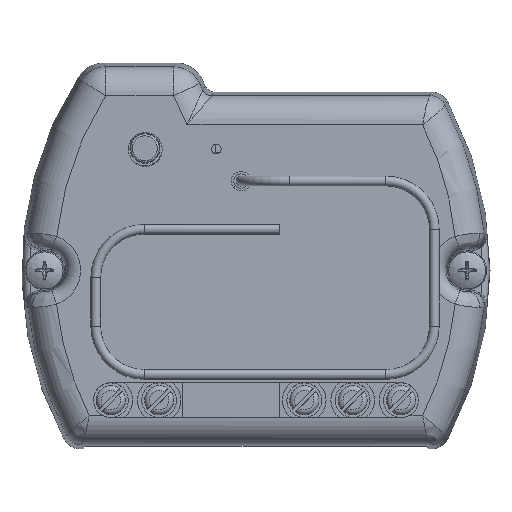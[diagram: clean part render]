
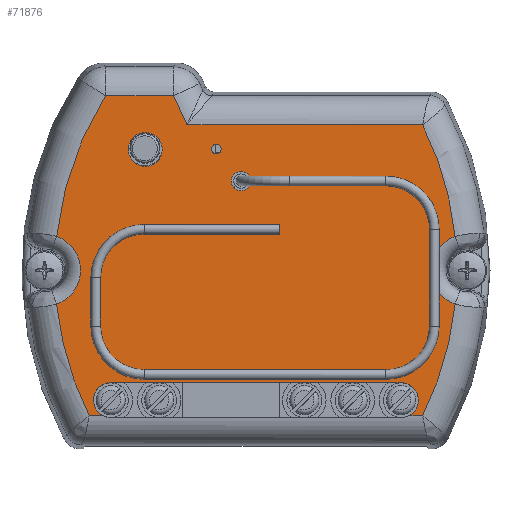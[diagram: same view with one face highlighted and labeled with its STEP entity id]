
A CAD part, top view. The second image highlights one B-rep face of the part: STEP entity #71876.
In plain terms, the highlighted planar face has unit normal (0, 0, 1).
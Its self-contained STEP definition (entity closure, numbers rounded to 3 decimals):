
#2489=FACE_BOUND('',#10809,.T.);
#2490=FACE_BOUND('',#10810,.T.);
#2491=FACE_BOUND('',#10811,.T.);
#3983=PLANE('',#77966);
#6436=FACE_OUTER_BOUND('',#10808,.T.);
#10808=EDGE_LOOP('',(#50602,#50603,#50604,#50605,#50606,#50607,#50608,#50609,
#50610,#50611,#50612,#50613,#50614,#50615));
#10809=EDGE_LOOP('',(#50616));
#10810=EDGE_LOOP('',(#50617));
#10811=EDGE_LOOP('',(#50618));
#15658=LINE('',#109242,#22760);
#15660=LINE('',#109280,#22762);
#15663=LINE('',#109292,#22765);
#15666=LINE('',#109360,#22768);
#15667=LINE('',#109364,#22769);
#15668=LINE('',#109368,#22770);
#22760=VECTOR('',#85790,10.);
#22762=VECTOR('',#85796,10.);
#22765=VECTOR('',#85811,10.);
#22768=VECTOR('',#85840,10.);
#22769=VECTOR('',#85843,10.);
#22770=VECTOR('',#85846,10.);
#29550=CIRCLE('',#77877,1.);
#29554=CIRCLE('',#77883,0.5);
#29589=CIRCLE('',#77961,33.582);
#29592=CIRCLE('',#77967,3.724);
#29593=CIRCLE('',#77968,33.582);
#29594=CIRCLE('',#77969,1.8);
#29595=CIRCLE('',#77970,1.8);
#29596=CIRCLE('',#77971,33.582);
#29597=CIRCLE('',#77972,3.724);
#29598=CIRCLE('',#77973,33.582);
#29599=CIRCLE('',#77974,1.75);
#32534=VERTEX_POINT('',#107391);
#32537=VERTEX_POINT('',#107401);
#32634=VERTEX_POINT('',#109230);
#32636=VERTEX_POINT('',#109241);
#32638=VERTEX_POINT('',#109278);
#32641=VERTEX_POINT('',#109290);
#32645=VERTEX_POINT('',#109330);
#32650=VERTEX_POINT('',#109355);
#32651=VERTEX_POINT('',#109357);
#32652=VERTEX_POINT('',#109359);
#32653=VERTEX_POINT('',#109361);
#32654=VERTEX_POINT('',#109363);
#32655=VERTEX_POINT('',#109365);
#32656=VERTEX_POINT('',#109367);
#32657=VERTEX_POINT('',#109369);
#32658=VERTEX_POINT('',#109371);
#32659=VERTEX_POINT('',#109374);
#39345=EDGE_CURVE('',#32534,#32534,#29550,.T.);
#39350=EDGE_CURVE('',#32537,#32537,#29554,.T.);
#39474=EDGE_CURVE('',#32634,#32636,#15658,.T.);
#39478=EDGE_CURVE('',#32638,#32634,#15660,.T.);
#39484=EDGE_CURVE('',#32641,#32638,#15663,.T.);
#39493=EDGE_CURVE('',#32645,#32641,#29589,.T.);
#39499=EDGE_CURVE('',#32650,#32645,#29592,.T.);
#39500=EDGE_CURVE('',#32651,#32650,#29593,.T.);
#39501=EDGE_CURVE('',#32652,#32651,#15666,.T.);
#39502=EDGE_CURVE('',#32652,#32653,#29594,.T.);
#39503=EDGE_CURVE('',#32653,#32654,#15667,.T.);
#39504=EDGE_CURVE('',#32654,#32655,#29595,.T.);
#39505=EDGE_CURVE('',#32656,#32655,#15668,.T.);
#39506=EDGE_CURVE('',#32657,#32656,#29596,.T.);
#39507=EDGE_CURVE('',#32658,#32657,#29597,.T.);
#39508=EDGE_CURVE('',#32636,#32658,#29598,.T.);
#39509=EDGE_CURVE('',#32659,#32659,#29599,.T.);
#50602=ORIENTED_EDGE('',*,*,#39484,.F.);
#50603=ORIENTED_EDGE('',*,*,#39493,.F.);
#50604=ORIENTED_EDGE('',*,*,#39499,.F.);
#50605=ORIENTED_EDGE('',*,*,#39500,.F.);
#50606=ORIENTED_EDGE('',*,*,#39501,.F.);
#50607=ORIENTED_EDGE('',*,*,#39502,.T.);
#50608=ORIENTED_EDGE('',*,*,#39503,.T.);
#50609=ORIENTED_EDGE('',*,*,#39504,.T.);
#50610=ORIENTED_EDGE('',*,*,#39505,.F.);
#50611=ORIENTED_EDGE('',*,*,#39506,.F.);
#50612=ORIENTED_EDGE('',*,*,#39507,.F.);
#50613=ORIENTED_EDGE('',*,*,#39508,.F.);
#50614=ORIENTED_EDGE('',*,*,#39474,.F.);
#50615=ORIENTED_EDGE('',*,*,#39478,.F.);
#50616=ORIENTED_EDGE('',*,*,#39345,.T.);
#50617=ORIENTED_EDGE('',*,*,#39350,.T.);
#50618=ORIENTED_EDGE('',*,*,#39509,.T.);
#71876=ADVANCED_FACE('',(#6436,#2489,#2490,#2491),#3983,.T.);
#77877=AXIS2_PLACEMENT_3D('',#107392,#85587,#85588);
#77883=AXIS2_PLACEMENT_3D('',#107402,#85600,#85601);
#77961=AXIS2_PLACEMENT_3D('',#109336,#85823,#85824);
#77966=AXIS2_PLACEMENT_3D('',#109354,#85834,#85835);
#77967=AXIS2_PLACEMENT_3D('',#109356,#85836,#85837);
#77968=AXIS2_PLACEMENT_3D('',#109358,#85838,#85839);
#77969=AXIS2_PLACEMENT_3D('',#109362,#85841,#85842);
#77970=AXIS2_PLACEMENT_3D('',#109366,#85844,#85845);
#77971=AXIS2_PLACEMENT_3D('',#109370,#85847,#85848);
#77972=AXIS2_PLACEMENT_3D('',#109372,#85849,#85850);
#77973=AXIS2_PLACEMENT_3D('',#109373,#85851,#85852);
#77974=AXIS2_PLACEMENT_3D('',#109375,#85853,#85854);
#85587=DIRECTION('center_axis',(0.,0.,-1.));
#85588=DIRECTION('ref_axis',(-1.,0.,0.));
#85600=DIRECTION('center_axis',(0.,0.,-1.));
#85601=DIRECTION('ref_axis',(-1.,0.,0.));
#85790=DIRECTION('',(1.,0.,0.));
#85796=DIRECTION('',(0.423,-0.906,0.));
#85811=DIRECTION('',(1.,0.,0.));
#85823=DIRECTION('center_axis',(0.,0.,-1.));
#85824=DIRECTION('ref_axis',(-0.962,0.272,0.));
#85834=DIRECTION('center_axis',(0.,0.,1.));
#85835=DIRECTION('ref_axis',(1.,0.,0.));
#85836=DIRECTION('center_axis',(0.,0.,1.));
#85837=DIRECTION('ref_axis',(1.,0.,0.));
#85838=DIRECTION('center_axis',(0.,0.,-1.));
#85839=DIRECTION('ref_axis',(-0.962,-0.272,0.));
#85840=DIRECTION('',(-1.,0.,0.));
#85841=DIRECTION('center_axis',(0.,0.,-1.));
#85842=DIRECTION('ref_axis',(-1.,0.,0.));
#85843=DIRECTION('',(1.,0.,0.));
#85844=DIRECTION('center_axis',(0.,0.,-1.));
#85845=DIRECTION('ref_axis',(-1.,0.,0.));
#85846=DIRECTION('',(-1.,0.,0.));
#85847=DIRECTION('center_axis',(0.,0.,-1.));
#85848=DIRECTION('ref_axis',(0.962,-0.272,0.));
#85849=DIRECTION('center_axis',(0.,0.,1.));
#85850=DIRECTION('ref_axis',(-1.,0.,0.));
#85851=DIRECTION('center_axis',(0.,0.,-1.));
#85852=DIRECTION('ref_axis',(0.962,0.272,0.));
#85853=DIRECTION('center_axis',(0.,0.,-1.));
#85854=DIRECTION('ref_axis',(1.,0.,0.));
#107391=CARTESIAN_POINT('',(-0.554,9.221,12.5));
#107392=CARTESIAN_POINT('Origin',(-1.554,9.221,12.5));
#107401=CARTESIAN_POINT('',(-3.585,12.527,12.5));
#107402=CARTESIAN_POINT('Origin',(-4.085,12.527,12.5));
#109230=CARTESIAN_POINT('',(-7.126,15.032,12.5));
#109241=CARTESIAN_POINT('',(17.23,15.032,12.5));
#109242=CARTESIAN_POINT('',(-9.047,15.032,12.5));
#109278=CARTESIAN_POINT('',(-8.525,18.032,12.5));
#109280=CARTESIAN_POINT('',(-9.516,20.156,12.5));
#109290=CARTESIAN_POINT('',(-15.53,18.032,12.5));
#109292=CARTESIAN_POINT('',(-14.761,18.032,12.5));
#109330=CARTESIAN_POINT('',(-20.599,3.508,12.5));
#109336=CARTESIAN_POINT('Origin',(12.8,0.,12.5));
#109354=CARTESIAN_POINT('Origin',(-12.174,19.1,12.5));
#109355=CARTESIAN_POINT('',(-20.599,-3.508,12.5));
#109356=CARTESIAN_POINT('Origin',(-21.85,0.,
12.5));
#109357=CARTESIAN_POINT('',(-17.23,-15.032,12.5));
#109358=CARTESIAN_POINT('Origin',(12.8,0.,12.5));
#109359=CARTESIAN_POINT('',(-15.807,-15.032,12.5));
#109360=CARTESIAN_POINT('',(9.047,-15.032,12.5));
#109361=CARTESIAN_POINT('',(-15.,-11.623,12.5));
#109362=CARTESIAN_POINT('Origin',(-15.,-13.423,12.5));
#109363=CARTESIAN_POINT('',(15.,-11.623,12.5));
#109364=CARTESIAN_POINT('',(7.5,-11.623,12.5));
#109365=CARTESIAN_POINT('',(15.807,-15.032,12.5));
#109366=CARTESIAN_POINT('Origin',(15.,-13.423,12.5));
#109367=CARTESIAN_POINT('',(17.23,-15.032,12.5));
#109368=CARTESIAN_POINT('',(9.047,-15.032,12.5));
#109369=CARTESIAN_POINT('',(20.599,-3.508,12.5));
#109370=CARTESIAN_POINT('Origin',(-12.8,0.,12.5));
#109371=CARTESIAN_POINT('',(20.599,3.508,12.5));
#109372=CARTESIAN_POINT('Origin',(21.85,0.,12.5));
#109373=CARTESIAN_POINT('Origin',(-12.8,0.,12.5));
#109374=CARTESIAN_POINT('',(-13.184,12.491,12.5));
#109375=CARTESIAN_POINT('Origin',(-11.434,12.491,12.5));
